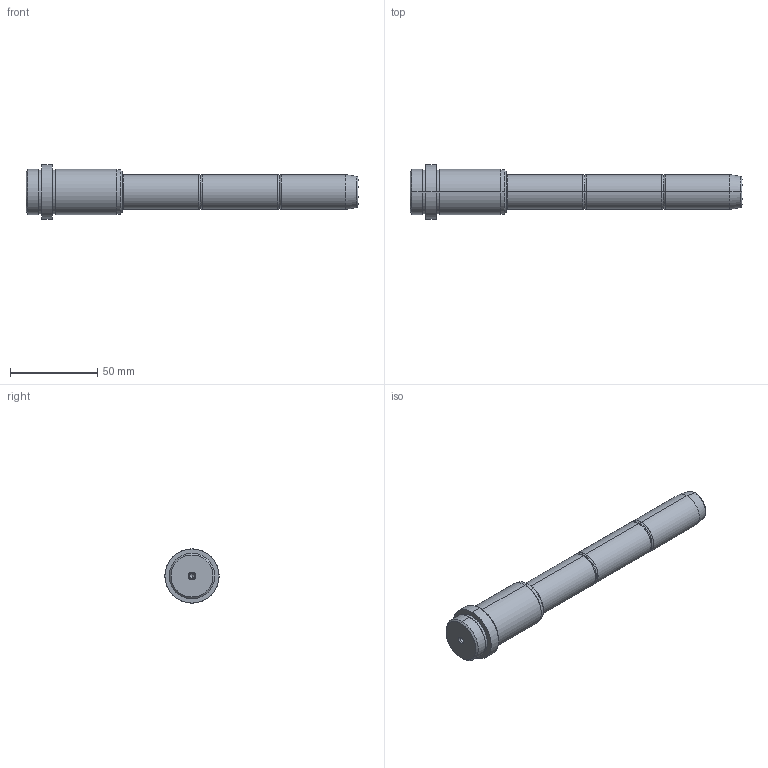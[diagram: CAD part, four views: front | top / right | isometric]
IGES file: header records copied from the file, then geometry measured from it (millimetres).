
Start section: SolidWorks IGES FILE using analytic representation for surfaces
Global section: file name: D:\zzzzz\Delta\D03\20\D03 - 20x46x135.IGS; native system: SolidWorks 2004 by SolidWorks Corporation; preprocessor: Version 5.3; author: Hkn; date: 080327.171846; units: millimetre
Bounding box: 190 x 31 x 31 mm (x, y, z)
Surface area: 14576 mm2 (no closed solid volume)
Topology: 0 solids, 0 shells, 56 faces, 768 edges, 764 vertices
Faces by surface type: revolution 36, bspline 20
